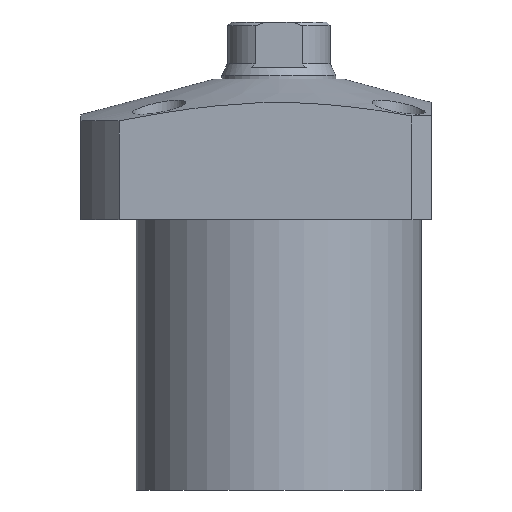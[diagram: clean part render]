
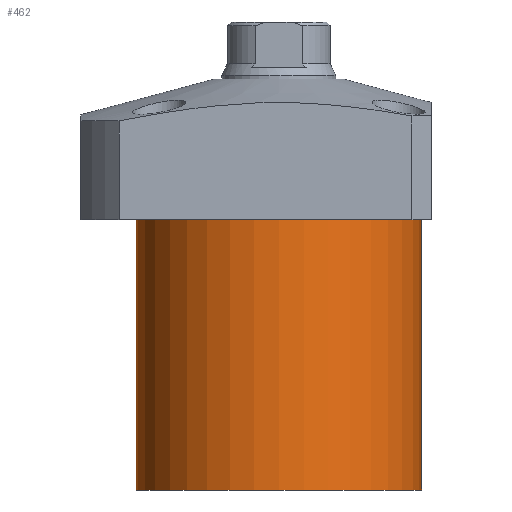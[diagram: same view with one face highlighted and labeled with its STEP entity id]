
A CAD part, front view. The second image highlights one B-rep face of the part: STEP entity #462.
In plain terms, the highlighted cylindrical face has radius 37.5 mm (diameter 75 mm), a partial arc.
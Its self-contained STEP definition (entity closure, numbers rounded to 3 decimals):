
#59 = DIRECTION ( 'NONE',  ( 0., 0., -1. ) ) ;
#172 = EDGE_CURVE ( 'NONE', #2535, #1394, #2336, .T. ) ;
#276 = CARTESIAN_POINT ( 'NONE',  ( -37.5, 0., -89.5 ) ) ;
#292 = AXIS2_PLACEMENT_3D ( 'NONE', #1844, #661, #1238 ) ;
#462 = ADVANCED_FACE ( 'NONE', ( #732 ), #1106, .T. ) ;
#465 = AXIS2_PLACEMENT_3D ( 'NONE', #2036, #59, #1425 ) ;
#533 = EDGE_LOOP ( 'NONE', ( #1156, #866, #1528, #834 ) ) ;
#653 = CARTESIAN_POINT ( 'NONE',  ( 37.5, 0., -18.5 ) ) ;
#661 = DIRECTION ( 'NONE',  ( 0., 0., -1. ) ) ;
#732 = FACE_OUTER_BOUND ( 'NONE', #533, .T. ) ;
#746 = DIRECTION ( 'NONE',  ( 1., 0., 0. ) ) ;
#769 = AXIS2_PLACEMENT_3D ( 'NONE', #2141, #2505, #746 ) ;
#817 = VECTOR ( 'NONE', #1793, 1000. ) ;
#827 = CARTESIAN_POINT ( 'NONE',  ( 37.5, 0., -89.5 ) ) ;
#834 = ORIENTED_EDGE ( 'NONE', *, *, #2418, .T. ) ;
#866 = ORIENTED_EDGE ( 'NONE', *, *, #172, .F. ) ;
#941 = VERTEX_POINT ( 'NONE', #1698 ) ;
#1067 = CARTESIAN_POINT ( 'NONE',  ( 37.5, 0., -89.5 ) ) ;
#1106 = CYLINDRICAL_SURFACE ( 'NONE', #769, 37.5 ) ;
#1154 = VECTOR ( 'NONE', #1470, 1000. ) ;
#1156 = ORIENTED_EDGE ( 'NONE', *, *, #1637, .F. ) ;
#1238 = DIRECTION ( 'NONE',  ( -1., 0., 0. ) ) ;
#1295 = CARTESIAN_POINT ( 'NONE',  ( -37.5, 0., -89.5 ) ) ;
#1374 = LINE ( 'NONE', #276, #1154 ) ;
#1394 = VERTEX_POINT ( 'NONE', #1295 ) ;
#1425 = DIRECTION ( 'NONE',  ( 1., 0., 0. ) ) ;
#1470 = DIRECTION ( 'NONE',  ( 0., 0., 1. ) ) ;
#1528 = ORIENTED_EDGE ( 'NONE', *, *, #1574, .T. ) ;
#1574 = EDGE_CURVE ( 'NONE', #2535, #2075, #2264, .T. ) ;
#1637 = EDGE_CURVE ( 'NONE', #1394, #941, #1374, .T. ) ;
#1683 = CIRCLE ( 'NONE', #465, 37.5 ) ;
#1698 = CARTESIAN_POINT ( 'NONE',  ( -37.5, 0., -18.5 ) ) ;
#1793 = DIRECTION ( 'NONE',  ( 0., 0., 1. ) ) ;
#1844 = CARTESIAN_POINT ( 'NONE',  ( 0., 0., -89.5 ) ) ;
#2036 = CARTESIAN_POINT ( 'NONE',  ( 0., 0., -18.5 ) ) ;
#2075 = VERTEX_POINT ( 'NONE', #653 ) ;
#2141 = CARTESIAN_POINT ( 'NONE',  ( 0., 0., -89.5 ) ) ;
#2264 = LINE ( 'NONE', #827, #817 ) ;
#2336 = CIRCLE ( 'NONE', #292, 37.5 ) ;
#2418 = EDGE_CURVE ( 'NONE', #2075, #941, #1683, .T. ) ;
#2505 = DIRECTION ( 'NONE',  ( 0., 0., 1. ) ) ;
#2535 = VERTEX_POINT ( 'NONE', #1067 ) ;
